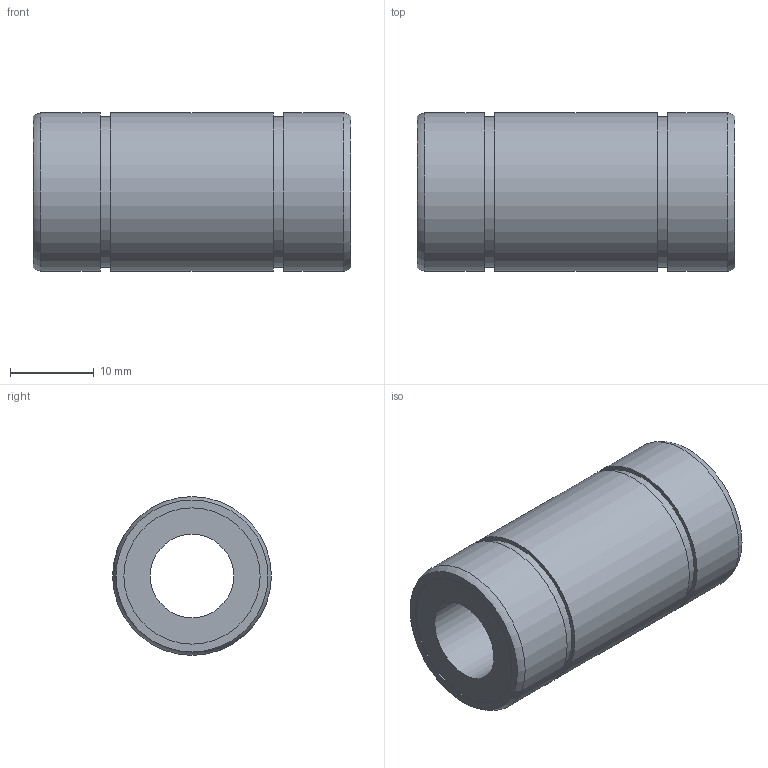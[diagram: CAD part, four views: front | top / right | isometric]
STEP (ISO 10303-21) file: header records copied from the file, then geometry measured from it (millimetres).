
FILE_DESCRIPTION((''),'2;1');
FILE_NAME('D:\製品 (図面)\カタログ用3D\メンテナンスフリー関連\STEP形式\L-MF\L10MF.stp','2010-06-01T16:12:17',('Tsuchiya'),(''),'Autodesk Inventor 10','Autodesk Inventor 10','');
FILE_SCHEMA(('AUTOMOTIVE_DESIGN { 1 0 10303 214 1 1 1 1 }'));
Length unit declared in the file: millimetre
Products named in the file (1): L10MF
Bounding box: 38 x 19 x 19 mm (x, y, z)
Volume: 7668.9 mm3; surface area: 3945.1 mm2
Topology: 1 solids, 1 shells, 18 faces, 28 edges, 18 vertices
Faces by surface type: cylinder 8, plane 8, torus 2
Full cylindrical faces by diameter (mm): 10 x1, 16.3 x2, 18 x2, 19 x3
Entity records: 391 total; most frequent: DIRECTION 74, CARTESIAN_POINT 55, AXIS2_PLACEMENT_3D 37, ORIENTED_EDGE 36, EDGE_LOOP 36, VERTEX_POINT 18, CIRCLE 18, EDGE_CURVE 18
